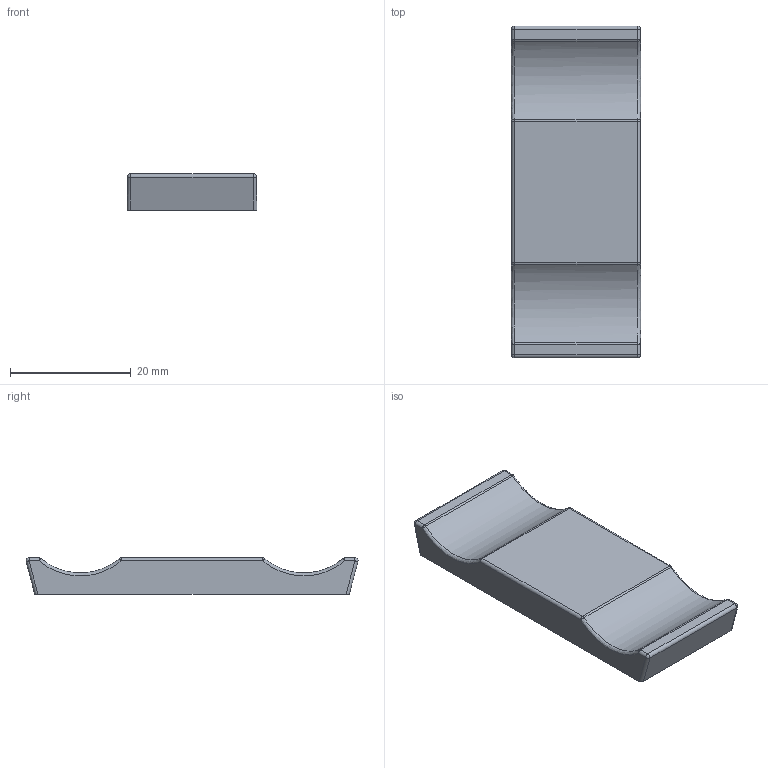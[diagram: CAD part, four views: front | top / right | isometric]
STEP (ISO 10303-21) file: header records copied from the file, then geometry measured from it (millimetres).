
FILE_DESCRIPTION(/* description */ (''),/* implementation_level */ '2;1');
FILE_NAME(/* name */ 'Z:\Tristan Inventor Projekte\Registerwippen Larenim\3374-100.stp',/* time_stamp */ '2022-09-05T15:02:50+02:00',/* author */ ('t.heuss'),/* organization */ ('ÐÅ¶ûÅµÉè¼Æ'),/* preprocessor_version */ 'ST-DEVELOPER v17',/* originating_system */ 'Autodesk Inventor 2018',/* authorisation */ '');
FILE_SCHEMA (('AUTOMOTIVE_DESIGN { 1 0 10303 214 3 1 1 }'));
Length unit declared in the file: millimetre
Products named in the file (1): 3374-100
Bounding box: 21.5 x 54.91 x 6 mm (x, y, z)
Volume: 3639.2 mm3; surface area: 4693 mm2
Topology: 1 solids, 1 shells, 263 faces, 668 edges, 426 vertices
Faces by surface type: plane 131, bspline 79, cylinder 35, sphere 12, cone 6
Full cylindrical faces by diameter (mm): 0.5 x2, 4 x2
Entity records: 12096 total; most frequent: CARTESIAN_POINT 5976, ORIENTED_EDGE 1308, DIRECTION 968, EDGE_CURVE 654, VERTEX_POINT 426, LINE 386, VECTOR 386, EDGE_LOOP 296
